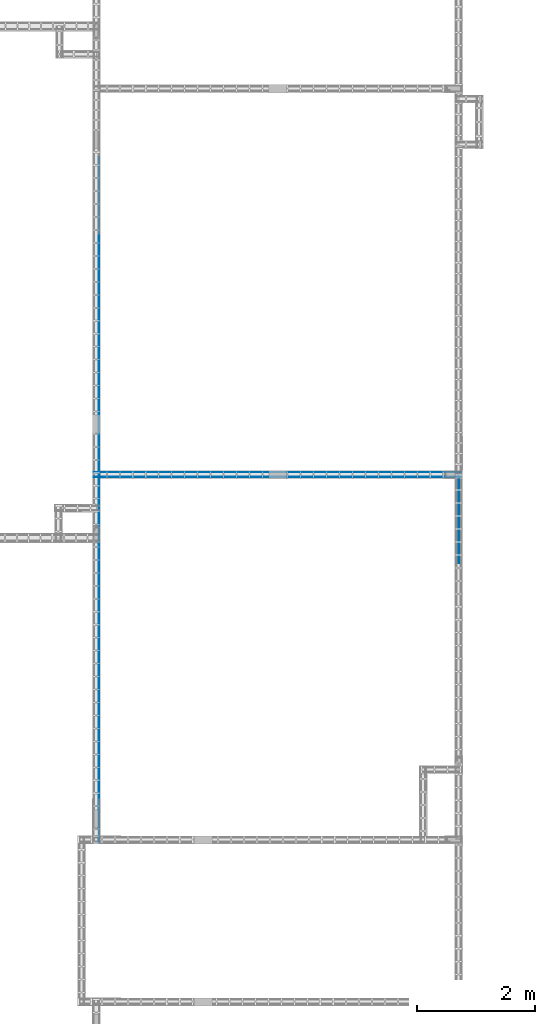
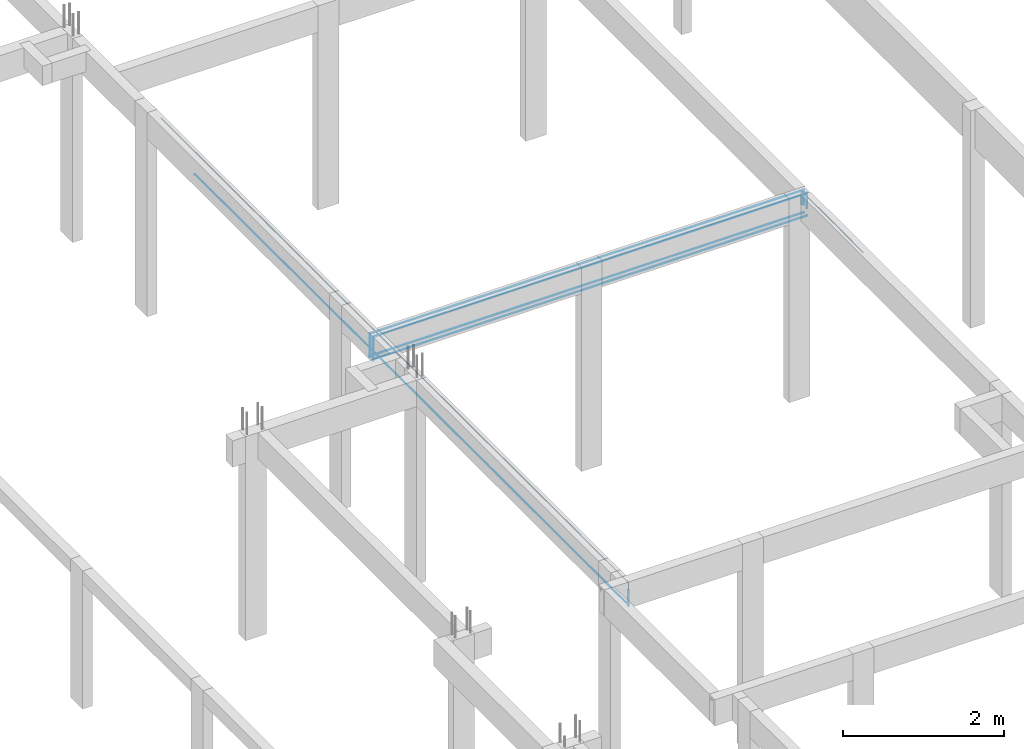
# One storey, part 61 of 236: 7 reinforcing bars.
"""IFC4 building model written with IfcOpenShell, lengths in centimetres."""

from ifc_helpers import new_model, entity, si_unit, derived_unit, frame, origin_with_axes, place, context, project, spatial, element, save


model = new_model("IFC4")

# Units and contexts
model_context = context("Model", 3, precision=1e-05, world=origin_with_axes(), identifier="Body")
ifc_project = project(units=[si_unit("LENGTHUNIT", "METRE", prefix="CENTI"), si_unit("VOLUMEUNIT", "CUBIC_METRE"), si_unit("AREAUNIT", "SQUARE_METRE"), si_unit("POWERUNIT", "WATT"), si_unit("LUMINOUSFLUXUNIT", "LUMEN"), si_unit("ELECTRICCURRENTUNIT", "AMPERE"), si_unit("PRESSUREUNIT", "PASCAL", prefix="KILO"), si_unit("MASSUNIT", "GRAM", prefix="KILO"), si_unit("PLANEANGLEUNIT", "RADIAN"), derived_unit("VOLUMETRICFLOWRATEUNIT", [(si_unit("LENGTHUNIT", "METRE"), 3), (si_unit("TIMEUNIT", "SECOND"), -1)])], contexts=[model_context])

# Site, building, storey
site_placement = place(None, frame((-4000.0, 0.0, 0.0), z_axis=(0.0, 0.0, 1.0), x_axis=(1.0, 0.0, 0.0)))
site = spatial("IfcSite", under=ifc_project, at=site_placement, Name="PADRÃO")
building_placement = place(site_placement, frame((0.0, 0.0, -14.0)))
building = spatial("IfcBuilding", under=site, at=building_placement, Name="CRECHE PRÉ-ESCOLA TIPO 2")
placement_1 = place(building_placement, origin_with_axes())
placement_2 = place(placement_1, frame((0.0, 0.0, 30.0), z_axis=(0.0, 0.0, 1.0), x_axis=(1.0, 0.0, 0.0)))
storey_placement = place(placement_2, frame((0.0, 0.0, 310.0), z_axis=(0.0, 0.0, 1.0), x_axis=(1.0, 0.0, 0.0)))
storey = spatial("IfcBuildingStorey", under=building, at=storey_placement, Name="TERREO", CompositionType="ELEMENT", Elevation=326.0)

# Reinforcing bars
for number, where, z_axis, x_axis, name in (
    (1, (810.705, 1918.4, -36.7), (0.0, 0.0, 1.0), (1.0, 0.0, 0.0), "V231 - Longitudinal inferior"),
    (2, (810.705, 1926.6, -36.7), (0.0, 0.0, 1.0), (1.0, 0.0, 0.0), "V231 - Longitudinal inferior"),
):
    element("IfcReinforcingBar", number, at=place(storey_placement, frame(where, z_axis=z_axis, x_axis=x_axis)), inside=storey, Name=name, BarLength=0.0, CrossSectionArea=5.0265482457e-05, NominalDiameter=0.8, PredefinedType="MAIN", context=model_context, shape_type="AdvancedSweptSolid", body=[
        entity("IfcSweptDiskSolid", entity("IfcCompositeCurve", [entity("IfcCompositeCurveSegment", "CONTINUOUS", True, entity("IfcPolyline", [entity("IfcCartesianPoint", [-312.015, 0.0, -0.4]), entity("IfcCartesianPoint", [312.015, 0.0, -0.4])]))], False), 0.4),
    ])
for number, where, z_axis, x_axis, name in (
    (3, (810.705, 1926.6, -2.49624973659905), (0.0, 0.0, 1.0), (1.0, 0.0, 0.0), "V231 - Longitudinal superior"),
    (4, (810.705, 1918.4, -2.49624973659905), (0.0, 0.0, 1.0), (1.0, 0.0, 0.0), "V231 - Longitudinal superior"),
):
    element("IfcReinforcingBar", number, at=place(storey_placement, frame(where, z_axis=z_axis, x_axis=x_axis)), inside=storey, Name=name, BarLength=0.0, CrossSectionArea=5.0265482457e-05, NominalDiameter=0.8, PredefinedType="MAIN", context=model_context, shape_type="AdvancedSweptSolid", body=[
        entity("IfcSweptDiskSolid", entity("IfcCompositeCurve", [entity("IfcCompositeCurveSegment", "CONTINUOUS", True, entity("IfcPolyline", [entity("IfcCartesianPoint", [-311.615, 0.0, -36.4037502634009]), entity("IfcCartesianPoint", [-311.615, 0.0, -0.403750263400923])])), entity("IfcCompositeCurveSegment", "CONTINUOUS", True, entity("IfcPolyline", [entity("IfcCartesianPoint", [-311.615, 0.0, -0.403750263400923]), entity("IfcCartesianPoint", [311.615, 0.0, -0.403750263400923])])), entity("IfcCompositeCurveSegment", "CONTINUOUS", True, entity("IfcPolyline", [entity("IfcCartesianPoint", [311.615, 0.0, -0.403750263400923]), entity("IfcCartesianPoint", [311.615, 0.0, -22.7014629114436])]))], False), 0.4),
    ])
reinforcing_bar_1_placement = place(storey_placement, frame((507.79, 1836.9981248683, -14.8022873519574), z_axis=(0.0, 0.0, 1.0), x_axis=(1.0, 0.0, 0.0)))
element("IfcReinforcingBar", 5, at=reinforcing_bar_1_placement, inside=storey, Name="V270 - Longitudinal inferior", BarLength=0.0, CrossSectionArea=5.0265482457e-05, NominalDiameter=0.8, PredefinedType="MAIN", context=model_context, shape_type="AdvancedSweptSolid", body=[
    entity("IfcSweptDiskSolid", entity("IfcCompositeCurve", [entity("IfcCompositeCurveSegment", "CONTINUOUS", True, entity("IfcPolyline", [entity("IfcCartesianPoint", [0.0, -539.098124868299, 0.0]), entity("IfcCartesianPoint", [0.0, -539.098124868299, -22.2977126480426])])), entity("IfcCompositeCurveSegment", "CONTINUOUS", True, entity("IfcPolyline", [entity("IfcCartesianPoint", [0.0, -539.098124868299, -22.2977126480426]), entity("IfcCartesianPoint", [0.0, 539.5018751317, -22.2977126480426])]))], False), 0.4),
])
reinforcing_bar_2_placement = place(storey_placement, frame((507.69, 1879.49765608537, -2.49531217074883), z_axis=(0.0, 0.0, 1.0), x_axis=(1.0, 0.0, 0.0)))
element("IfcReinforcingBar", 6, at=reinforcing_bar_2_placement, inside=storey, Name="V270 - Longitudinal superior", BarLength=0.0, CrossSectionArea=7.853981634e-05, NominalDiameter=1.0, PredefinedType="MAIN", context=model_context, shape_type="AdvancedSweptSolid", body=[
    entity("IfcSweptDiskSolid", entity("IfcCompositeCurve", [entity("IfcCompositeCurveSegment", "CONTINUOUS", True, entity("IfcPolyline", [entity("IfcCartesianPoint", [0.0, -581.497656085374, -36.5046878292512]), entity("IfcCartesianPoint", [0.0, -581.497656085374, -0.504687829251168])])), entity("IfcCompositeCurveSegment", "CONTINUOUS", True, entity("IfcPolyline", [entity("IfcCartesianPoint", [0.0, -581.497656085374, -0.504687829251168]), entity("IfcCartesianPoint", [0.0, 582.002343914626, -0.504687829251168])]))], False), 0.5),
])
reinforcing_bar_3_placement = place(storey_placement, frame((1118.72, 1850.0018751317, -2.49624973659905), z_axis=(0.0, 0.0, 1.0), x_axis=(1.0, 0.0, 0.0)))
element("IfcReinforcingBar", 7, at=reinforcing_bar_3_placement, inside=storey, Name="V277 - Longitudinal superior", BarLength=0.0, CrossSectionArea=5.0265482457e-05, NominalDiameter=0.8, PredefinedType="MAIN", context=model_context, shape_type="AdvancedSweptSolid", body=[
    entity("IfcSweptDiskSolid", entity("IfcCompositeCurve", [entity("IfcCompositeCurveSegment", "CONTINUOUS", True, entity("IfcPolyline", [entity("IfcCartesianPoint", [0.0, -77.5018751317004, -0.403750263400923]), entity("IfcCartesianPoint", [0.0, 77.0981248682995, -0.403750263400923])])), entity("IfcCompositeCurveSegment", "CONTINUOUS", True, entity("IfcPolyline", [entity("IfcCartesianPoint", [0.0, 77.0981248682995, -0.403750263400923]), entity("IfcCartesianPoint", [0.0, 77.0981248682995, -21.795640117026])]))], False), 0.4),
])

save(model, "model.ifc")
